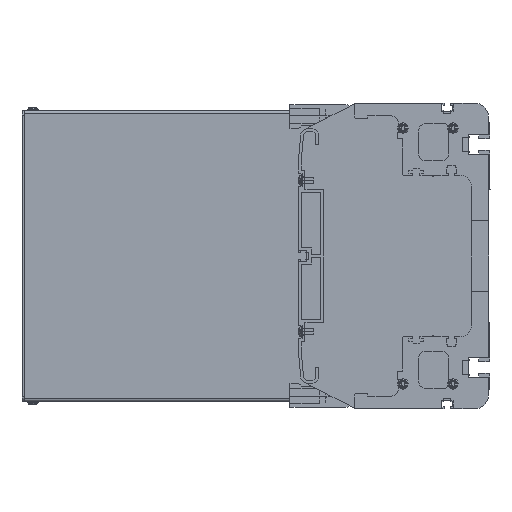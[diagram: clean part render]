
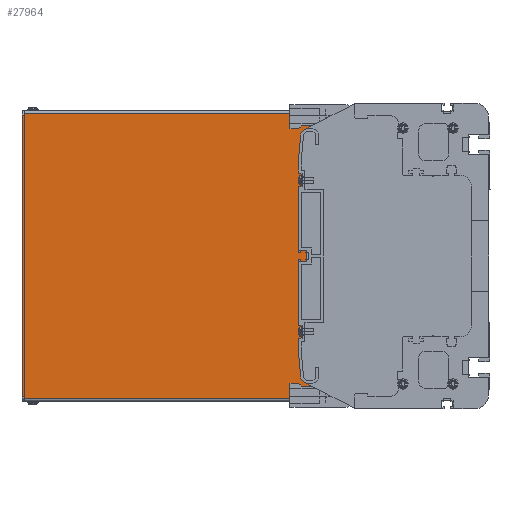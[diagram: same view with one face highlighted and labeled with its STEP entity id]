
A CAD part, left-side view. The second image highlights one B-rep face of the part: STEP entity #27964.
In plain terms, the highlighted planar face has unit normal (-1, 0, 0).
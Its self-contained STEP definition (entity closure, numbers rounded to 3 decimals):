
#4113=DIRECTION('',(0.,0.,1.));
#4114=VECTOR('',#4113,2.8);
#4115=CARTESIAN_POINT('',(-134.5,95.,97.2));
#4116=LINE('',#4115,#4114);
#4413=DIRECTION('',(0.,1.,0.));
#4414=VECTOR('',#4413,1.5);
#4415=CARTESIAN_POINT('',(-134.5,326.,98.5));
#4416=LINE('',#4415,#4414);
#4421=DIRECTION('',(0.,0.,-1.));
#4422=VECTOR('',#4421,1.5);
#4423=CARTESIAN_POINT('',(-134.5,326.,-98.5));
#4424=LINE('',#4423,#4422);
#4425=DIRECTION('',(0.,0.,-1.));
#4426=VECTOR('',#4425,1.5);
#4427=CARTESIAN_POINT('',(-134.5,326.,100.));
#4428=LINE('',#4427,#4426);
#4429=DIRECTION('',(0.,0.,1.));
#4430=VECTOR('',#4429,194.4);
#4431=CARTESIAN_POINT('',(-134.5,95.,-97.2));
#4432=LINE('',#4431,#4430);
#4437=DIRECTION('',(0.,-1.,0.));
#4438=VECTOR('',#4437,1.5);
#4439=CARTESIAN_POINT('',(-134.5,327.5,-98.5));
#4440=LINE('',#4439,#4438);
#4599=DIRECTION('',(0.,0.,-1.));
#4600=VECTOR('',#4599,2.8);
#4601=CARTESIAN_POINT('',(-134.5,95.,-97.2));
#4602=LINE('',#4601,#4600);
#4896=DIRECTION('',(0.,0.,1.));
#4897=VECTOR('',#4896,197.);
#4898=CARTESIAN_POINT('',(-134.5,327.5,-98.5));
#4899=LINE('',#4898,#4897);
#5445=DIRECTION('',(0.,1.,0.));
#5446=VECTOR('',#5445,231.);
#5447=CARTESIAN_POINT('',(-134.5,95.,100.));
#5448=LINE('',#5447,#5446);
#6101=DIRECTION('',(0.,-1.,0.));
#6102=VECTOR('',#6101,231.);
#6103=CARTESIAN_POINT('',(-134.5,326.,-100.));
#6104=LINE('',#6103,#6102);
#17137=CARTESIAN_POINT('',(-134.5,326.,100.));
#17139=VERTEX_POINT('',#17137);
#17142=CARTESIAN_POINT('',(-134.5,326.,-100.));
#17144=VERTEX_POINT('',#17142);
#20269=CARTESIAN_POINT('',(-134.5,327.5,98.5));
#20271=VERTEX_POINT('',#20269);
#20273=CARTESIAN_POINT('',(-134.5,327.5,-98.5));
#20274=VERTEX_POINT('',#20273);
#20753=CARTESIAN_POINT('',(-134.5,95.,-97.2));
#20755=VERTEX_POINT('',#20753);
#20767=CARTESIAN_POINT('',(-134.5,95.,-100.));
#20768=VERTEX_POINT('',#20767);
#20777=CARTESIAN_POINT('',(-134.5,95.,97.2));
#20778=CARTESIAN_POINT('',(-134.5,95.,100.));
#20779=VERTEX_POINT('',#20777);
#20780=VERTEX_POINT('',#20778);
#20818=CARTESIAN_POINT('',(-134.5,326.,98.5));
#20820=VERTEX_POINT('',#20818);
#20821=CARTESIAN_POINT('',(-134.5,326.,-98.5));
#20823=VERTEX_POINT('',#20821);
#27941=CARTESIAN_POINT('',(-134.5,210.5,0.));
#27942=DIRECTION('',(1.,0.,0.));
#27943=DIRECTION('',(0.,0.,1.));
#27944=AXIS2_PLACEMENT_3D('',#27941,#27942,#27943);
#27945=PLANE('',#27944);
#27946=ORIENTED_EDGE('',*,*,#27841,.F.);
#27948=ORIENTED_EDGE('',*,*,#27947,.F.);
#27950=ORIENTED_EDGE('',*,*,#27949,.T.);
#27951=ORIENTED_EDGE('',*,*,#27932,.F.);
#27952=ORIENTED_EDGE('',*,*,#27829,.F.);
#27954=ORIENTED_EDGE('',*,*,#27953,.F.);
#27955=ORIENTED_EDGE('',*,*,#27553,.F.);
#27957=ORIENTED_EDGE('',*,*,#27956,.F.);
#27959=ORIENTED_EDGE('',*,*,#27958,.T.);
#27961=ORIENTED_EDGE('',*,*,#27960,.F.);
#27962=EDGE_LOOP('',(#27946,#27948,#27950,#27951,#27952,#27954,#27955,#27957,
#27959,#27961));
#27963=FACE_OUTER_BOUND('',#27962,.F.);
#27964=ADVANCED_FACE('',(#27963),#27945,.F.);
#27553=EDGE_CURVE('',#20779,#20780,#4116,.T.);
#27829=EDGE_CURVE('',#17139,#20820,#4428,.T.);
#27841=EDGE_CURVE('',#20823,#17144,#4424,.T.);
#27932=EDGE_CURVE('',#20820,#20271,#4416,.T.);
#27947=EDGE_CURVE('',#20274,#20823,#4440,.T.);
#27949=EDGE_CURVE('',#20274,#20271,#4899,.T.);
#27953=EDGE_CURVE('',#20780,#17139,#5448,.T.);
#27956=EDGE_CURVE('',#20755,#20779,#4432,.T.);
#27958=EDGE_CURVE('',#20755,#20768,#4602,.T.);
#27960=EDGE_CURVE('',#17144,#20768,#6104,.T.);
